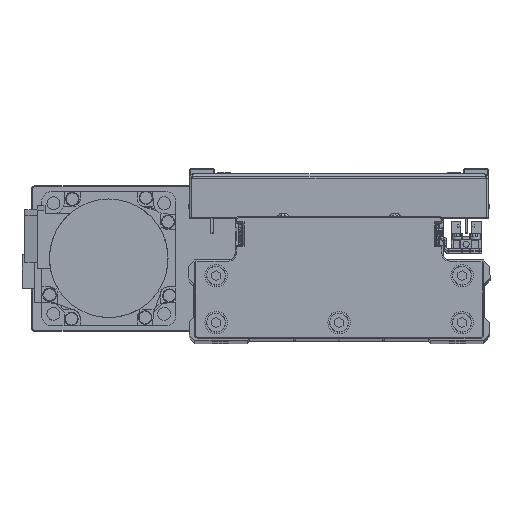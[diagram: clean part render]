
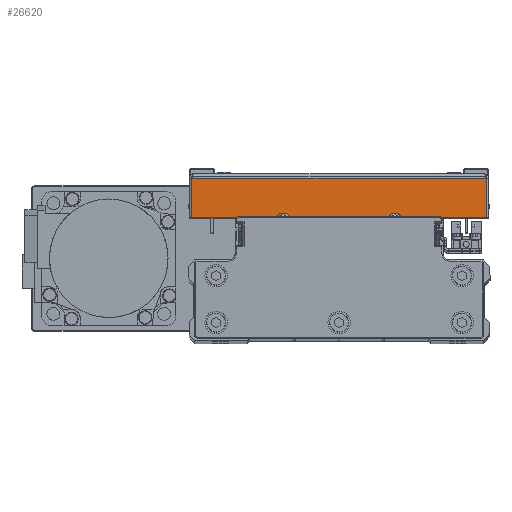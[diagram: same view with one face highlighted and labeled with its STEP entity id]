
A CAD part, top view. The second image highlights one B-rep face of the part: STEP entity #26620.
In plain terms, the highlighted planar face has unit normal (0, 0, 1) as drawn and (1, 0, 0) by its records, which use the part's own axes.
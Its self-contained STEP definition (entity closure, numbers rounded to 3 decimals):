
#645 = CARTESIAN_POINT ( 'NONE',  ( 100., 1., -65.929 ) ) ;
#929 = CARTESIAN_POINT ( 'NONE',  ( 100., 0., -65.929 ) ) ;
#2456 = EDGE_LOOP ( 'NONE', ( #23694, #24795, #23856, #3212 ) ) ;
#2886 = EDGE_CURVE ( 'NONE', #10162, #10886, #35935, .T. ) ;
#3212 = ORIENTED_EDGE ( 'NONE', *, *, #37878, .F. ) ;
#3913 = DIRECTION ( 'NONE',  ( 0., 0., 1. ) ) ;
#4053 = EDGE_CURVE ( 'NONE', #26548, #24177, #20935, .T. ) ;
#5319 = CARTESIAN_POINT ( 'NONE',  ( 100., 1., 67. ) ) ;
#5468 = DIRECTION ( 'NONE',  ( 0., -1., 0. ) ) ;
#8811 = PLANE ( 'NONE',  #37122 ) ;
#9908 = DIRECTION ( 'NONE',  ( 0., 1., 0. ) ) ;
#10162 = VERTEX_POINT ( 'NONE', #645 ) ;
#10886 = VERTEX_POINT ( 'NONE', #33454 ) ;
#14374 = VECTOR ( 'NONE', #3913, 1000. ) ;
#14622 = DIRECTION ( 'NONE',  ( 0., 1., 0. ) ) ;
#15017 = VECTOR ( 'NONE', #18977, 1000. ) ;
#15196 = VECTOR ( 'NONE', #14622, 1000. ) ;
#16230 = VECTOR ( 'NONE', #9908, 1000. ) ;
#18977 = DIRECTION ( 'NONE',  ( 0., 0., 1. ) ) ;
#20935 = LINE ( 'NONE', #34548, #14374 ) ;
#22475 = CARTESIAN_POINT ( 'NONE',  ( 100., 0., 0. ) ) ;
#23694 = ORIENTED_EDGE ( 'NONE', *, *, #2886, .F. ) ;
#23856 = ORIENTED_EDGE ( 'NONE', *, *, #4053, .T. ) ;
#24177 = VERTEX_POINT ( 'NONE', #36497 ) ;
#24795 = ORIENTED_EDGE ( 'NONE', *, *, #40512, .T. ) ;
#26548 = VERTEX_POINT ( 'NONE', #35648 ) ;
#26620 = ADVANCED_FACE ( 'NONE', ( #39418 ), #8811, .F. ) ;
#26913 = LINE ( 'NONE', #40517, #16230 ) ;
#31608 = LINE ( 'NONE', #929, #15196 ) ;
#33454 = CARTESIAN_POINT ( 'NONE',  ( 100., 1., 65.929 ) ) ;
#34548 = CARTESIAN_POINT ( 'NONE',  ( 100., 18.5, 0. ) ) ;
#35648 = CARTESIAN_POINT ( 'NONE',  ( 100., 18.5, -65.929 ) ) ;
#35935 = LINE ( 'NONE', #5319, #15017 ) ;
#36082 = DIRECTION ( 'NONE',  ( -1., 0., 0. ) ) ;
#36497 = CARTESIAN_POINT ( 'NONE',  ( 100., 18.5, 65.929 ) ) ;
#37122 = AXIS2_PLACEMENT_3D ( 'NONE', #22475, #36082, #5468 ) ;
#37878 = EDGE_CURVE ( 'NONE', #10886, #24177, #26913, .T. ) ;
#39418 = FACE_OUTER_BOUND ( 'NONE', #2456, .T. ) ;
#40512 = EDGE_CURVE ( 'NONE', #10162, #26548, #31608, .T. ) ;
#40517 = CARTESIAN_POINT ( 'NONE',  ( 100., 0., 65.929 ) ) ;
